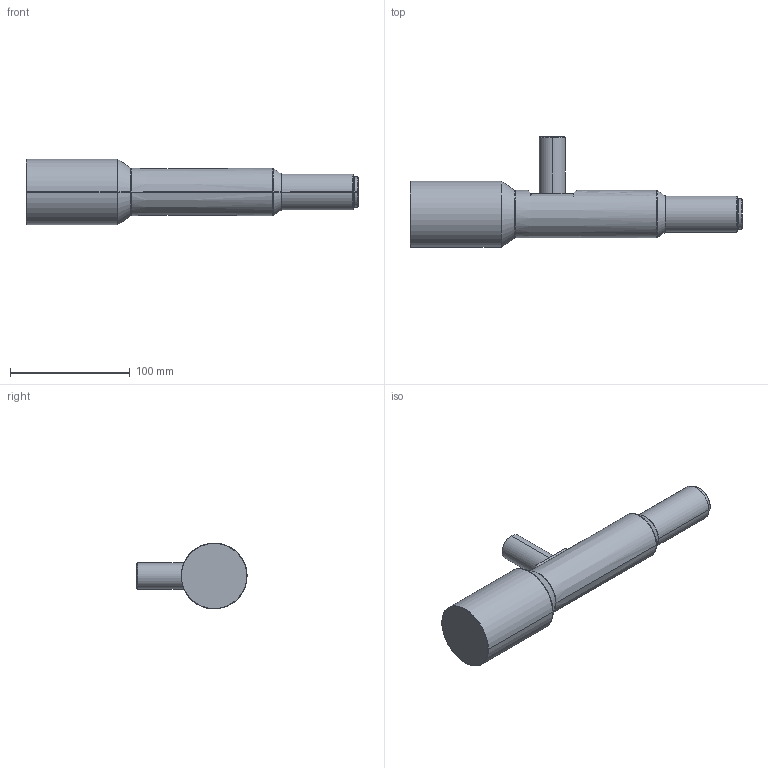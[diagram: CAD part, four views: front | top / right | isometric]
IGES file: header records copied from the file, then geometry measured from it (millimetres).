
Start section: SolidWorks IGES file using analytic representation for surfaces
Global section: file name: E:\芞祧\錘蚙\WWH20-300CT-230V2_俋倛芞\WWH20-300CT-230V2.IGS; native system: SolidWorks 2017; preprocessor: SolidWorks 2017; author: gc; date: 221213.164834; units: millimetre
Bounding box: 277.4 x 92 x 55 mm (x, y, z)
Surface area: 43371.4 mm2 (no closed solid volume)
Topology: 0 solids, 0 shells, 50 faces, 546 edges, 546 vertices
Faces by surface type: bspline 26, revolution 24
